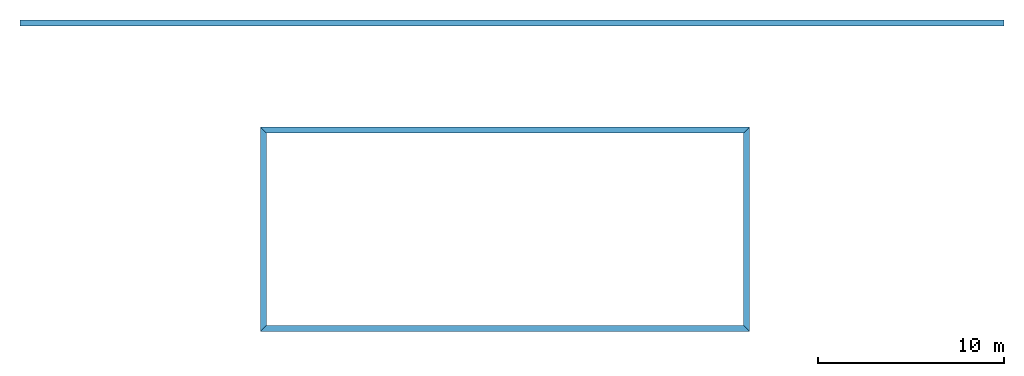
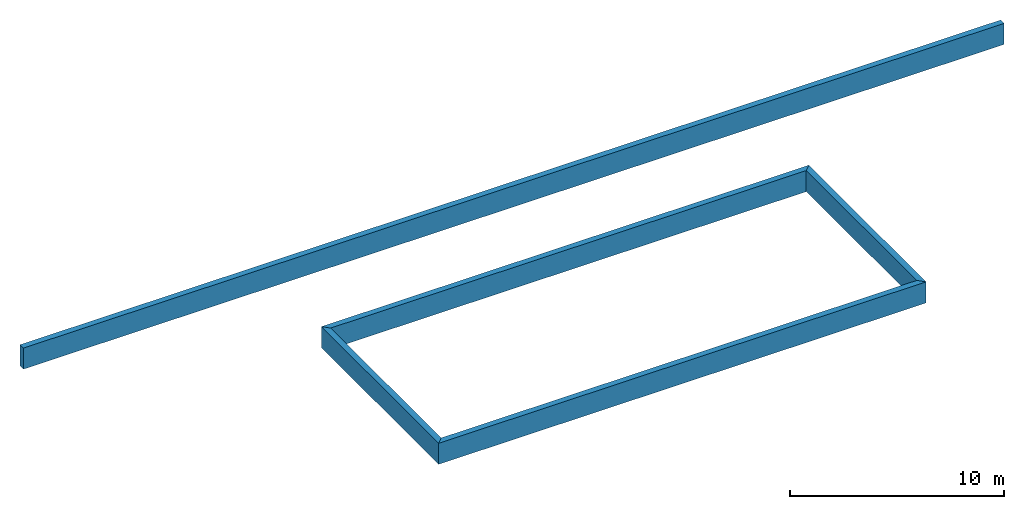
# One storey: 5 walls.
"""IFC2X3 building model written with IfcOpenShell, lengths in millimetres."""

import ifcopenshell
import ifcopenshell.guid

model = None  # the IFC model being written
_history = None  # IfcOwnerHistory: only IFC2X3 demands one
_inside = {}  # id of a spatial element -> (the spatial element, [elements in it])
_under = {}  # id of a project, library or spatial element -> (it, [spatial elements below it])
_declared = {}  # id of a project -> (the project, [libraries it declares])
_typed = {}  # id of a type object -> (the type object, [elements of that type])
_made_of = {}  # id of a material, layer set ... -> (it, [elements and type objects made of it])


def new_model(schema):
    """Start an empty IFC model of exactly this schema.

    Asked for "IFC4X3", IfcOpenShell would pick the latest addendum, in which some entities
    have other attributes; the version numbers below select the first issue.
    IFC2X3 requires an IfcOwnerHistory on every rooted entity: one is made here for all.
    """
    global model, _history
    if schema == "IFC4X3":
        model = ifcopenshell.file(schema_version=(4, 3, 0, 0))
    else:
        model = ifcopenshell.file(schema=schema)
    _inside.clear()
    _under.clear()
    _declared.clear()
    _typed.clear()
    _made_of.clear()
    _history = None
    if model.schema == "IFC2X3":
        org = make("IfcOrganization", Name="unknown")
        user = make(
            "IfcPersonAndOrganization",
            ThePerson=make("IfcPerson", FamilyName="unknown"),
            TheOrganization=org,
        )
        app = make(
            "IfcApplication",
            ApplicationDeveloper=org,
            Version="unknown",
            ApplicationFullName="unknown",
            ApplicationIdentifier="unknown",
        )
        _history = make(
            "IfcOwnerHistory",
            OwningUser=user,
            OwningApplication=app,
            ChangeAction="ADDED",
            CreationDate=0,
        )
    return model


def make(cls, **values):
    """One entity of the class cls with the attributes given. An attribute that is None is left unset."""
    return model.create_entity(
        cls, **{name: value for name, value in values.items() if value is not None}
    )


def entity(cls, *values):
    """Any entity or typed value of the class cls, its attributes in the order of the schema. None: left unset."""
    e = model.create_entity(cls)
    for i, value in enumerate(values):
        if value is not None:
            e[i] = value
    return e


def rooted(cls, **values):
    """An entity with a GlobalId (a new one), such as an element, a storey or a relation."""
    return make(cls, GlobalId=ifcopenshell.guid.new(), OwnerHistory=_history, **values)


def si_unit(unit_type, name, prefix=None):
    """IfcSIUnit, for example si_unit("LENGTHUNIT", "METRE", prefix="MILLI")."""
    return make("IfcSIUnit", UnitType=unit_type, Prefix=prefix, Name=name)


def converted_unit(unit_type, name, factor, base, dimensions=None, offset=None):
    """IfcConversionBasedUnit, such as the inch: factor (a typed value) times the base unit."""
    return make(
        "IfcConversionBasedUnit"
        if offset is None
        else "IfcConversionBasedUnitWithOffset",
        ConversionOffset=offset,
        Dimensions=None
        if dimensions is None
        else entity("IfcDimensionalExponents", *dimensions),
        UnitType=unit_type,
        Name=name,
        ConversionFactor=make(
            "IfcMeasureWithUnit", ValueComponent=factor, UnitComponent=base
        ),
    )


def derived_unit(unit_type, elements):
    """IfcDerivedUnit: a product of units, each with its exponent."""
    return make(
        "IfcDerivedUnit",
        Elements=[
            make("IfcDerivedUnitElement", Unit=unit, Exponent=power)
            for unit, power in elements
        ],
        UnitType=unit_type,
    )


def money_unit(currency):
    """IfcMonetaryUnit."""
    return make("IfcMonetaryUnit", Currency=currency)


def assignment(units):
    """IfcUnitAssignment: the units of a project."""
    return None if units is None else make("IfcUnitAssignment", Units=units)


def point(xyz):
    """IfcCartesianPoint."""
    return None if xyz is None else make("IfcCartesianPoint", Coordinates=xyz)


def direction(xyz):
    """IfcDirection."""
    return None if xyz is None else make("IfcDirection", DirectionRatios=xyz)


def frame(location, z_axis=None, x_axis=None):
    """IfcAxis2Placement3D, a coordinate frame: its origin and axes. An axis left out is left unset."""
    return make(
        "IfcAxis2Placement3D",
        Location=point(location),
        Axis=direction(z_axis),
        RefDirection=direction(x_axis),
    )


def origin_with_axes():
    """The frame at (0, 0, 0) with the z axis (0, 0, 1) and the x axis (1, 0, 0) written out."""
    return frame((0.0, 0.0, 0.0), z_axis=(0.0, 0.0, 1.0), x_axis=(1.0, 0.0, 0.0))


def place(relative_to, where):
    """IfcLocalPlacement: puts the frame where relative to a parent placement (None: the world)."""
    return make(
        "IfcLocalPlacement", PlacementRelTo=relative_to, RelativePlacement=where
    )


def context(
    kind, dimensions, precision=None, world=None, true_north=None, identifier=None
):
    """IfcGeometricRepresentationContext, for example the 3D "Model" context."""
    return make(
        "IfcGeometricRepresentationContext",
        ContextIdentifier=identifier,
        ContextType=kind,
        CoordinateSpaceDimension=dimensions,
        Precision=precision,
        WorldCoordinateSystem=world,
        TrueNorth=true_north,
    )


def subcontext(parent, identifier, kind, view, scale=None):
    """IfcGeometricRepresentationSubContext, for example "Body" below "Model"."""
    return make(
        "IfcGeometricRepresentationSubContext",
        ContextIdentifier=identifier,
        ContextType=kind,
        ParentContext=parent,
        TargetScale=scale,
        TargetView=view,
    )


def project(units=None, contexts=None):
    """IfcProject with its units and contexts."""
    return rooted(
        "IfcProject",
        Name="project",
        RepresentationContexts=contexts,
        UnitsInContext=assignment(units),
    )


def spatial(cls, under=None, at=None, **own):
    """A site, building, storey or space (cls), placed at a placement, below another one or the project."""
    s = rooted(cls, ObjectPlacement=at, **own)
    if under is not None:
        _under.setdefault(under.id(), (under, []))[1].append(s)
    return s


def polyline(points):
    """IfcPolyline through the points."""
    return make("IfcPolyline", Points=[point(p) for p in points])


def outline(outer, holes=None, kind="AREA"):
    """IfcArbitraryClosedProfileDef: a profile drawn as a closed curve; with holes, ...WithVoids."""
    if holes is None:
        return make("IfcArbitraryClosedProfileDef", ProfileType=kind, OuterCurve=outer)
    return make(
        "IfcArbitraryProfileDefWithVoids",
        ProfileType=kind,
        OuterCurve=outer,
        InnerCurves=holes,
    )


def extrude(swept, where, along, depth):
    """IfcExtrudedAreaSolid: the profile swept, set in the frame where, extruded along a direction by depth."""
    return make(
        "IfcExtrudedAreaSolid",
        SweptArea=swept,
        Position=where,
        ExtrudedDirection=direction(along),
        Depth=depth,
    )


def shape(context_of_items, identifier, shape_type, items):
    """IfcShapeRepresentation: the items that make up one representation, for example the "Body"."""
    return make(
        "IfcShapeRepresentation",
        ContextOfItems=context_of_items,
        RepresentationIdentifier=identifier,
        RepresentationType=shape_type,
        Items=items,
    )


def material(Name=None, Category=None):
    """IfcMaterial."""
    return make("IfcMaterial", Name=Name, Category=Category)


def layer(
    of_material, thickness, ventilated=None, Name=None, Category=None, Priority=None
):
    """IfcMaterialLayer: one layer of a wall or slab, of a material (None: an air gap)."""
    return make(
        "IfcMaterialLayer",
        Material=of_material,
        LayerThickness=thickness,
        IsVentilated=ventilated,
        Name=Name,
        Category=Category,
        Priority=Priority,
    )


def layer_set(layers, Name=None):
    """IfcMaterialLayerSet."""
    return make("IfcMaterialLayerSet", MaterialLayers=layers, LayerSetName=Name)


def layer_usage(for_layer_set, set_direction, sense, offset, extent=None):
    """IfcMaterialLayerSetUsage: how a layer set lies in its element."""
    return make(
        "IfcMaterialLayerSetUsage",
        ForLayerSet=for_layer_set,
        LayerSetDirection=set_direction,
        DirectionSense=sense,
        OffsetFromReferenceLine=offset,
        ReferenceExtent=extent,
    )


def made_of(thing, what):
    """Note that an element or type object is made of a material, layer set ...; save() writes the relation."""
    if what is not None:
        _made_of.setdefault(what.id(), (what, []))[1].append(thing)
    return thing


def type_object(cls, material=None, **own):
    """A type object (cls), such as IfcWallType, which elements share."""
    return made_of(rooted(cls, **own), material)


def element(
    cls,
    number,
    at=None,
    inside=None,
    cuts=None,
    type_object=None,
    material=None,
    context=None,
    identifier="Body",
    shape_type=None,
    held_by="IfcProductDefinitionShape",
    body=None,
    shapes=None,
    **own,
):
    """One element of the class cls, such as IfcWall. Its Tag is "e" and its number.

    at: its placement. inside: the storey or other place that contains it. cuts: it is an
    opening in that element (IfcRelVoidsElement). A single representation is given by context,
    identifier, shape_type and body (its items); several are given by shapes. held_by: the class
    of the entity that holds the representations. save() writes the other relations.
    """
    e = rooted(cls, Tag="e%d" % number, ObjectPlacement=at, **own)
    if body is not None:
        shapes = [shape(context, identifier, shape_type, body)]
    if shapes is not None:
        e.Representation = make(held_by, Representations=shapes)
    if inside is not None:
        _inside.setdefault(inside.id(), (inside, []))[1].append(e)
    if cuts is not None:
        rooted(
            "IfcRelVoidsElement", RelatingBuildingElement=cuts, RelatedOpeningElement=e
        )
    if type_object is not None:
        _typed.setdefault(type_object.id(), (type_object, []))[1].append(e)
    return made_of(e, material)


def aggregate(whole, parts):
    """IfcRelAggregates: a whole, such as a stair, and the parts it consists of."""
    return rooted("IfcRelAggregates", RelatingObject=whole, RelatedObjects=parts)


def save(model, path):
    """Write the relations noted so far, then the file.

    IfcRelAggregates (storeys below a building ...), IfcRelContainedInSpatialStructure (elements
    in a storey), IfcRelDefinesByType, IfcRelAssociatesMaterial and IfcRelDeclares: one each for
    every whole, place, type object, material and project.
    """
    for whole, parts in _under.values():
        aggregate(whole, parts)
    for where, things in _inside.values():
        rooted(
            "IfcRelContainedInSpatialStructure",
            RelatedElements=things,
            RelatingStructure=where,
        )
    for kind, things in _typed.values():
        rooted("IfcRelDefinesByType", RelatedObjects=things, RelatingType=kind)
    for what, things in _made_of.values():
        rooted("IfcRelAssociatesMaterial", RelatedObjects=things, RelatingMaterial=what)
    for by, libraries in _declared.values():
        rooted("IfcRelDeclares", RelatingContext=by, RelatedDefinitions=libraries)
    model.write(path)


model = new_model("IFC2X3")

# Units and contexts
model_context = context("Model", 3, precision=0.01, world=origin_with_axes(), true_north=direction((0.0, 1.0)))
body_context = subcontext(model_context, "Body", "Model", "MODEL_VIEW")
ifc_project = project(units=[si_unit("LENGTHUNIT", "METRE", prefix="MILLI"), si_unit("AREAUNIT", "SQUARE_METRE"), si_unit("VOLUMEUNIT", "CUBIC_METRE"), converted_unit("PLANEANGLEUNIT", "DEGREE", entity("IfcPlaneAngleMeasure", 0.0174532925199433), si_unit("PLANEANGLEUNIT", "RADIAN"), dimensions=[0, 0, 0, 0, 0, 0, 0]), money_unit("USD"), converted_unit("TIMEUNIT", "Year", entity("IfcTimeMeasure", 31557600.0), si_unit("TIMEUNIT", "SECOND"), dimensions=[0, 0, 1, 0, 0, 0, 0]), si_unit("MASSUNIT", "GRAM", prefix="KILO"), si_unit("THERMODYNAMICTEMPERATUREUNIT", "DEGREE_CELSIUS"), si_unit("LUMINOUSINTENSITYUNIT", "LUMEN"), si_unit("ENERGYUNIT", "JOULE", prefix="MEGA"), derived_unit("THERMALCONDUCTANCEUNIT", [(si_unit("POWERUNIT", "WATT"), 1), (si_unit("LENGTHUNIT", "METRE"), -1), (si_unit("THERMODYNAMICTEMPERATUREUNIT", "KELVIN"), -1)]), derived_unit("SPECIFICHEATCAPACITYUNIT", [(si_unit("ENERGYUNIT", "JOULE"), 1), (si_unit("MASSUNIT", "GRAM", prefix="KILO"), -1), (si_unit("THERMODYNAMICTEMPERATUREUNIT", "KELVIN"), -1)]), derived_unit("MASSDENSITYUNIT", [(si_unit("MASSUNIT", "GRAM", prefix="KILO"), 1), (si_unit("VOLUMEUNIT", "CUBIC_METRE"), -1)])], contexts=[model_context])

# Site, building, storey
site_placement = place(None, origin_with_axes())
site = spatial("IfcSite", under=ifc_project, at=site_placement, Name="Sitio", CompositionType="ELEMENT")
building_placement = place(site_placement, origin_with_axes())
building = spatial("IfcBuilding", under=site, at=building_placement, Name="Construcción", CompositionType="ELEMENT")
storey_placement = place(building_placement, frame((0.0, 0.0, 7300.0), z_axis=(0.0, 0.0, 1.0), x_axis=(1.0, 0.0, 0.0)))
storey = spatial("IfcBuildingStorey", under=building, at=storey_placement, Name="PLANTA 3", CompositionType="ELEMENT", Elevation=7300.0)

# Walls
ifc_material_1 = material(Name="ARQ_CE217_Gero")
ifc_layer_1 = layer(ifc_material_1, 150.0, ventilated="UNKNOWN")
ifc_material_2 = material(Name="ARQ_AI031_Aillament_Poliestireno expandido EPS")
ifc_layer_2 = layer(ifc_material_2, 100.0, ventilated="UNKNOWN")
ifc_material_3 = material(Name="ARQ_CE218_Ceramic")
ifc_layer_3 = layer(ifc_material_3, 50.0, ventilated="UNKNOWN")
ifc_material_4 = material(Name="ARQ_AM246_Arrebossat_De_Guix")
ifc_layer_4 = layer(ifc_material_4, 20.0, ventilated="UNKNOWN")
ifc_layer_set = layer_set([ifc_layer_1, ifc_layer_2, ifc_layer_3, ifc_layer_4], Name="façana pati CR3")
ifc_layer_usage_1 = layer_usage(ifc_layer_set, "AXIS2", "POSITIVE", -320.0)
wall_type = type_object("IfcWallType", Name="façana pati CR3 320", PredefinedType="NOTDEFINED")
wall_1_placement = place(storey_placement, frame((-1781.109004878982, -12338.97582371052, 0.0), z_axis=(0.0, 0.0, 1.0), x_axis=(-1.0, 0.0, 0.0)))
element("IfcWallStandardCase", 1, at=wall_1_placement, inside=storey, type_object=wall_type, material=ifc_layer_usage_1, Name="MS-201", context=body_context, shape_type="SweptSolid", body=[
    extrude(outline(polyline([(319.9999999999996, -320.0000000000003), (25949.73917540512, -320.0000000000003), (26269.73917540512, 0.0), (0.0, 0.0), (319.9999999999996, -320.0000000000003)])), origin_with_axes(), (0.0, 0.0, 1.0), 1200.0),
])
ifc_layer_usage_2 = layer_usage(ifc_layer_set, "AXIS2", "POSITIVE", -320.0)
wall_2_placement = place(storey_placement, frame((-28050.84818028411, -12338.97582371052, 0.0), z_axis=(0.0, 0.0, 1.0), x_axis=(0.0, 1.0, 0.0)))
element("IfcWallStandardCase", 2, at=wall_2_placement, inside=storey, type_object=wall_type, material=ifc_layer_usage_2, Name="MS-200", context=body_context, shape_type="SweptSolid", body=[
    extrude(outline(polyline([(320.0000000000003, -320.0000000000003), (10640.00000000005, -320.0000000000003), (10960.00000000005, 0.0), (0.0, 0.0), (320.0000000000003, -320.0000000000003)])), origin_with_axes(), (0.0, 0.0, 1.0), 1200.0),
])
ifc_layer_usage_3 = layer_usage(ifc_layer_set, "AXIS2", "POSITIVE", -320.0)
wall_3_placement = place(storey_placement, frame((-28050.84818028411, -1378.975823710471, 0.0), z_axis=(0.0, 0.0, 1.0), x_axis=(1.0, 0.0, 0.0)))
element("IfcWallStandardCase", 3, at=wall_3_placement, inside=storey, type_object=wall_type, material=ifc_layer_usage_3, Name="MS-200", context=body_context, shape_type="SweptSolid", body=[
    extrude(outline(polyline([(320.0000000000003, -320.0000000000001), (25949.73917540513, -320.0000000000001), (26269.73917540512, 0.0), (0.0, 0.0), (320.0000000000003, -320.0000000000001)])), origin_with_axes(), (0.0, 0.0, 1.0), 1200.0),
])
ifc_layer_usage_4 = layer_usage(ifc_layer_set, "AXIS2", "POSITIVE", -320.0)
wall_4_placement = place(storey_placement, frame((-40967.6888957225, 4378.454186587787, 0.0), z_axis=(0.0, 0.0, 1.0), x_axis=(1.0, 0.0, 0.0)))
element("IfcWallStandardCase", 4, at=wall_4_placement, inside=storey, type_object=wall_type, material=ifc_layer_usage_4, Name="MS-200", context=body_context, shape_type="SweptSolid", body=[
    extrude(outline(polyline([(0.0, -320.0000000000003), (52850.32927292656, -320.0000000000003), (52850.32927292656, 0.0), (0.0, 0.0), (0.0, -320.0000000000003)])), origin_with_axes(), (0.0, 0.0, 1.0), 1200.0),
])
ifc_layer_usage_5 = layer_usage(ifc_layer_set, "AXIS2", "POSITIVE", -320.0)
wall_5_placement = place(storey_placement, frame((-1781.10900487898, -1378.975823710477, 0.0), z_axis=(0.0, 0.0, 1.0), x_axis=(0.0, -1.0, 0.0)))
element("IfcWallStandardCase", 5, at=wall_5_placement, inside=storey, type_object=wall_type, material=ifc_layer_usage_5, Name="MS-200", context=body_context, shape_type="SweptSolid", body=[
    extrude(outline(polyline([(319.9999999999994, -319.9999999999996), (10640.00000000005, -320.0000000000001), (10960.00000000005, 0.0), (0.0, 0.0), (319.9999999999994, -319.9999999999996)])), origin_with_axes(), (0.0, 0.0, 1.0), 1200.0),
])

save(model, "model.ifc")
